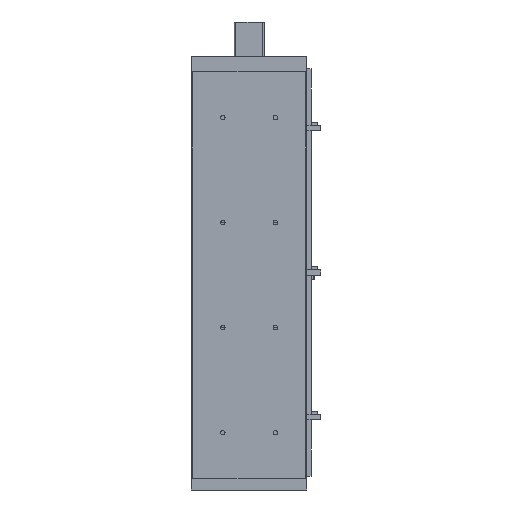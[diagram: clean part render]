
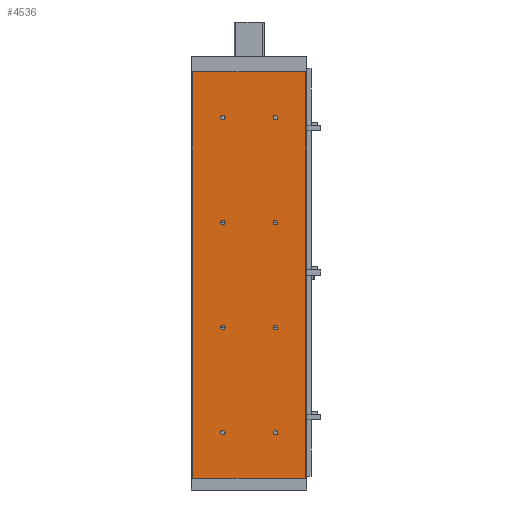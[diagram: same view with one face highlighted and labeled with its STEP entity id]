
A CAD part, front view. The second image highlights one B-rep face of the part: STEP entity #4536.
In plain terms, the highlighted planar face has unit normal (0, -1, 0).
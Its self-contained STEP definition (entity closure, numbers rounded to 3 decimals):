
#3162=CARTESIAN_POINT('',(-107.,0.0,774.0));
#3163=VERTEX_POINT('',#3162);
#3170=CARTESIAN_POINT('',(107.,0.0,774.0));
#3171=VERTEX_POINT('',#3170);
#3172=CARTESIAN_POINT('',(107.,0.0,774.0));
#3173=DIRECTION('',(-1.0,0.0,0.0));
#3174=VECTOR('',#3173,214.);
#3175=LINE('',#3172,#3174);
#3176=EDGE_CURVE('',#3171,#3163,#3175,.T.);
#3506=CARTESIAN_POINT('',(107.,0.0,0.0));
#3507=VERTEX_POINT('',#3506);
#3514=CARTESIAN_POINT('',(-107.,0.0,0.0));
#3515=VERTEX_POINT('',#3514);
#3516=CARTESIAN_POINT('',(-107.,0.0,0.0));
#3517=DIRECTION('',(1.0,0.0,0.0));
#3518=VECTOR('',#3517,214.);
#3519=LINE('',#3516,#3518);
#3520=EDGE_CURVE('',#3515,#3507,#3519,.T.);
#3557=CARTESIAN_POINT('',(-54.249,0.0,687.));
#3558=VERTEX_POINT('',#3557);
#3559=CARTESIAN_POINT('',(-49.999,0.0,687.));
#3560=DIRECTION('',(0.0,1.0,0.0));
#3561=DIRECTION('',(1.0,0.0,0.0));
#3562=AXIS2_PLACEMENT_3D('',#3559,#3560,#3561);
#3563=CIRCLE('',#3562,4.25);
#3564=EDGE_CURVE('',#3558,#3558,#3563,.T.);
#3736=CARTESIAN_POINT('',(45.751,0.0,687.));
#3737=VERTEX_POINT('',#3736);
#3738=CARTESIAN_POINT('',(50.001,0.0,687.));
#3739=DIRECTION('',(0.0,1.0,0.0));
#3740=DIRECTION('',(1.0,0.0,0.0));
#3741=AXIS2_PLACEMENT_3D('',#3738,#3739,#3740);
#3742=CIRCLE('',#3741,4.25);
#3743=EDGE_CURVE('',#3737,#3737,#3742,.T.);
#3777=CARTESIAN_POINT('',(-54.249,0.0,287.));
#3778=VERTEX_POINT('',#3777);
#3779=CARTESIAN_POINT('',(-49.999,0.0,287.));
#3780=DIRECTION('',(0.0,1.0,0.0));
#3781=DIRECTION('',(1.0,0.0,0.0));
#3782=AXIS2_PLACEMENT_3D('',#3779,#3780,#3781);
#3783=CIRCLE('',#3782,4.25);
#3784=EDGE_CURVE('',#3778,#3778,#3783,.T.);
#3956=CARTESIAN_POINT('',(45.751,0.0,287.));
#3957=VERTEX_POINT('',#3956);
#3958=CARTESIAN_POINT('',(50.001,0.0,287.));
#3959=DIRECTION('',(0.0,1.0,0.0));
#3960=DIRECTION('',(1.0,0.0,0.0));
#3961=AXIS2_PLACEMENT_3D('',#3958,#3959,#3960);
#3962=CIRCLE('',#3961,4.25);
#3963=EDGE_CURVE('',#3957,#3957,#3962,.T.);
#3997=CARTESIAN_POINT('',(-54.249,0.0,87.));
#3998=VERTEX_POINT('',#3997);
#3999=CARTESIAN_POINT('',(-49.999,0.0,87.));
#4000=DIRECTION('',(0.0,1.0,0.0));
#4001=DIRECTION('',(1.0,0.0,0.0));
#4002=AXIS2_PLACEMENT_3D('',#3999,#4000,#4001);
#4003=CIRCLE('',#4002,4.25);
#4004=EDGE_CURVE('',#3998,#3998,#4003,.T.);
#4176=CARTESIAN_POINT('',(45.751,0.0,87.));
#4177=VERTEX_POINT('',#4176);
#4178=CARTESIAN_POINT('',(50.001,0.0,87.));
#4179=DIRECTION('',(0.0,1.0,0.0));
#4180=DIRECTION('',(1.0,0.0,0.0));
#4181=AXIS2_PLACEMENT_3D('',#4178,#4179,#4180);
#4182=CIRCLE('',#4181,4.25);
#4183=EDGE_CURVE('',#4177,#4177,#4182,.T.);
#4286=CARTESIAN_POINT('',(45.751,0.0,487.));
#4287=VERTEX_POINT('',#4286);
#4288=CARTESIAN_POINT('',(50.001,0.0,487.));
#4289=DIRECTION('',(0.0,1.0,0.0));
#4290=DIRECTION('',(1.0,0.0,0.0));
#4291=AXIS2_PLACEMENT_3D('',#4288,#4289,#4290);
#4292=CIRCLE('',#4291,4.25);
#4293=EDGE_CURVE('',#4287,#4287,#4292,.T.);
#4396=CARTESIAN_POINT('',(-54.249,0.0,487.));
#4397=VERTEX_POINT('',#4396);
#4398=CARTESIAN_POINT('',(-49.999,0.0,487.));
#4399=DIRECTION('',(0.0,1.0,0.0));
#4400=DIRECTION('',(1.0,0.0,0.0));
#4401=AXIS2_PLACEMENT_3D('',#4398,#4399,#4400);
#4402=CIRCLE('',#4401,4.25);
#4403=EDGE_CURVE('',#4397,#4397,#4402,.T.);
#4423=CARTESIAN_POINT('',(107.,0.0,0.0));
#4424=DIRECTION('',(0.0,0.0,1.0));
#4425=VECTOR('',#4424,774.0);
#4426=LINE('',#4423,#4425);
#4427=EDGE_CURVE('',#3507,#3171,#4426,.T.);
#4445=CARTESIAN_POINT('',(-107.,0.0,0.0));
#4446=DIRECTION('',(0.0,0.0,1.0));
#4447=VECTOR('',#4446,774.0);
#4448=LINE('',#4445,#4447);
#4449=EDGE_CURVE('',#3515,#3163,#4448,.T.);
#4501=CARTESIAN_POINT('',(107.,0.0,0.0));
#4502=DIRECTION('',(0.0,-1.0,0.0));
#4503=DIRECTION('',(0.0,0.0,-1.0));
#4504=AXIS2_PLACEMENT_3D('',#4501,#4502,#4503);
#4505=PLANE('',#4504);
#4506=ORIENTED_EDGE('',*,*,#3176,.T.);
#4507=ORIENTED_EDGE('',*,*,#4449,.F.);
#4508=ORIENTED_EDGE('',*,*,#3520,.T.);
#4509=ORIENTED_EDGE('',*,*,#4427,.T.);
#4510=EDGE_LOOP('',(#4506,#4507,#4508,#4509));
#4511=FACE_OUTER_BOUND('',#4510,.T.);
#4512=ORIENTED_EDGE('',*,*,#3564,.T.);
#4513=EDGE_LOOP('',(#4512));
#4514=FACE_BOUND('',#4513,.T.);
#4515=ORIENTED_EDGE('',*,*,#3743,.T.);
#4516=EDGE_LOOP('',(#4515));
#4517=FACE_BOUND('',#4516,.T.);
#4518=ORIENTED_EDGE('',*,*,#3784,.T.);
#4519=EDGE_LOOP('',(#4518));
#4520=FACE_BOUND('',#4519,.T.);
#4521=ORIENTED_EDGE('',*,*,#3963,.T.);
#4522=EDGE_LOOP('',(#4521));
#4523=FACE_BOUND('',#4522,.T.);
#4524=ORIENTED_EDGE('',*,*,#4004,.T.);
#4525=EDGE_LOOP('',(#4524));
#4526=FACE_BOUND('',#4525,.T.);
#4527=ORIENTED_EDGE('',*,*,#4183,.T.);
#4528=EDGE_LOOP('',(#4527));
#4529=FACE_BOUND('',#4528,.T.);
#4530=ORIENTED_EDGE('',*,*,#4293,.T.);
#4531=EDGE_LOOP('',(#4530));
#4532=FACE_BOUND('',#4531,.T.);
#4533=ORIENTED_EDGE('',*,*,#4403,.T.);
#4534=EDGE_LOOP('',(#4533));
#4535=FACE_BOUND('',#4534,.T.);
#4536=ADVANCED_FACE('',(#4511,#4514,#4517,#4520,#4523,#4526,#4529,#4532,#4535),#4505,.T.);
